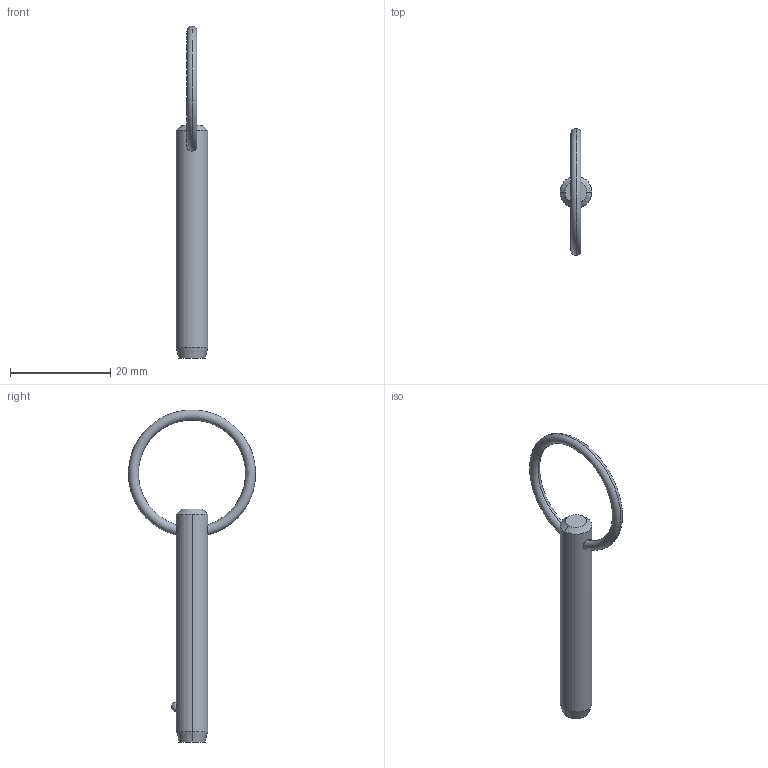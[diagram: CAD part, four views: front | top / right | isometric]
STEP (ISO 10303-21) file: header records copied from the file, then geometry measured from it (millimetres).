
FILE_DESCRIPTION (( 'STEP AP203' ), '1' );
FILE_NAME ('P1250.025-130.step', '2019-07-29T19:40:26', ( '' ), ( '' ), 'SwSTEP 2.0', 'SolidWorks 2017', '' );
FILE_SCHEMA (( 'CONFIG_CONTROL_DESIGN' ));
Length unit declared in the file: millimetre
Products named in the file (1): P1250.025-130
Bounding box: 6.35 x 25.38 x 66.32 mm (x, y, z)
Volume: 1666.3 mm3; surface area: 1385 mm2
Topology: 1 solids, 1 shells, 12 faces, 28 edges, 17 vertices
Faces by surface type: cone 4, torus 2, sphere 2, cylinder 2, plane 2
Entity records: 481 total; most frequent: CARTESIAN_POINT 148, DIRECTION 56, ORIENTED_EDGE 48, AXIS2_PLACEMENT_3D 25, EDGE_CURVE 24, EDGE_LOOP 15, VERTEX_POINT 15, FACE_OUTER_BOUND 12
